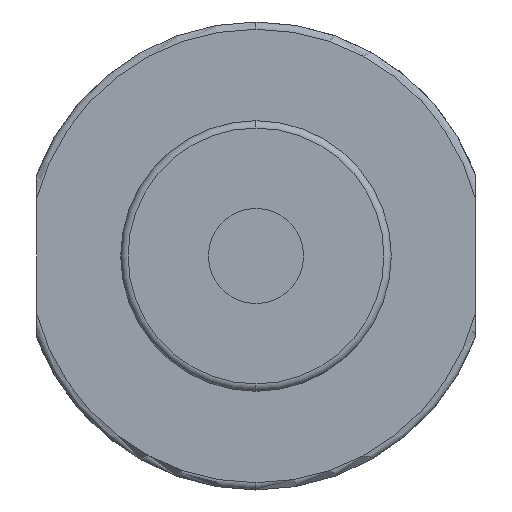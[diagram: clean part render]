
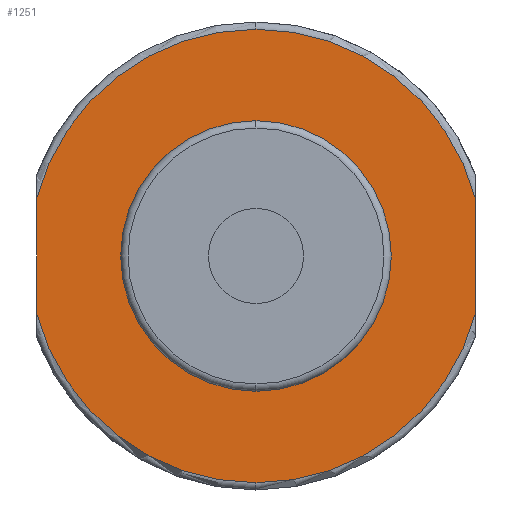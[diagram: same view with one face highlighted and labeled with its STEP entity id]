
A CAD part, left-side view. The second image highlights one B-rep face of the part: STEP entity #1251.
In plain terms, the highlighted planar face has unit normal (-1, 0, 0).
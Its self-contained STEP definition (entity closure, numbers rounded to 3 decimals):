
#94 = EDGE_CURVE ( 'NONE', #115, #631, #1217, .T. ) ;
#115 = VERTEX_POINT ( 'NONE', #910 ) ;
#126 = DIRECTION ( 'NONE',  ( 0., 1., 0. ) ) ;
#128 = CARTESIAN_POINT ( 'NONE',  ( 19., 0., 15.5 ) ) ;
#133 = CARTESIAN_POINT ( 'NONE',  ( 19., 0., 0. ) ) ;
#160 = ORIENTED_EDGE ( 'NONE', *, *, #94, .F. ) ;
#202 = ORIENTED_EDGE ( 'NONE', *, *, #1478, .F. ) ;
#237 = EDGE_CURVE ( 'NONE', #1318, #434, #633, .T. ) ;
#272 = DIRECTION ( 'NONE',  ( 0., 1., 0. ) ) ;
#280 = DIRECTION ( 'NONE',  ( 0., 1., 0. ) ) ;
#285 = ORIENTED_EDGE ( 'NONE', *, *, #1544, .F. ) ;
#299 = LINE ( 'NONE', #913, #687 ) ;
#303 = EDGE_CURVE ( 'NONE', #1088, #466, #552, .T. ) ;
#434 = VERTEX_POINT ( 'NONE', #732 ) ;
#441 = DIRECTION ( 'NONE',  ( 0., 1., 0. ) ) ;
#452 = FACE_BOUND ( 'NONE', #1665, .T. ) ;
#466 = VERTEX_POINT ( 'NONE', #1276 ) ;
#499 = CARTESIAN_POINT ( 'NONE',  ( 19., 0., -15.5 ) ) ;
#534 = CARTESIAN_POINT ( 'NONE',  ( 19., 0., 0. ) ) ;
#545 = CIRCLE ( 'NONE', #1431, 15.5 ) ;
#552 = CIRCLE ( 'NONE', #1016, 9.25 ) ;
#562 = VERTEX_POINT ( 'NONE', #1270 ) ;
#578 = CARTESIAN_POINT ( 'NONE',  ( 19., 0., 0. ) ) ;
#631 = VERTEX_POINT ( 'NONE', #499 ) ;
#633 = CIRCLE ( 'NONE', #1618, 15.5 ) ;
#645 = CARTESIAN_POINT ( 'NONE',  ( 19., 15., 0. ) ) ;
#650 = CARTESIAN_POINT ( 'NONE',  ( 19., 0., 0. ) ) ;
#659 = AXIS2_PLACEMENT_3D ( 'NONE', #1620, #791, #280 ) ;
#669 = ORIENTED_EDGE ( 'NONE', *, *, #1331, .T. ) ;
#677 = EDGE_CURVE ( 'NONE', #115, #434, #299, .T. ) ;
#687 = VECTOR ( 'NONE', #1613, 1000. ) ;
#710 = DIRECTION ( 'NONE',  ( 0., 1., 0. ) ) ;
#732 = CARTESIAN_POINT ( 'NONE',  ( 19., -15., 3.905 ) ) ;
#784 = CARTESIAN_POINT ( 'NONE',  ( 19., 12.375, 0. ) ) ;
#791 = DIRECTION ( 'NONE',  ( 1., 0., 0. ) ) ;
#798 = CIRCLE ( 'NONE', #1063, 15.5 ) ;
#818 = VECTOR ( 'NONE', #936, 1000. ) ;
#854 = AXIS2_PLACEMENT_3D ( 'NONE', #784, #1200, #1630 ) ;
#867 = VERTEX_POINT ( 'NONE', #1642 ) ;
#877 = DIRECTION ( 'NONE',  ( 0., 1., 0. ) ) ;
#893 = EDGE_CURVE ( 'NONE', #466, #1088, #963, .T. ) ;
#910 = CARTESIAN_POINT ( 'NONE',  ( 19., -15., -3.905 ) ) ;
#913 = CARTESIAN_POINT ( 'NONE',  ( 19., -15., 0. ) ) ;
#936 = DIRECTION ( 'NONE',  ( 0., 0., -1. ) ) ;
#942 = FACE_OUTER_BOUND ( 'NONE', #1356, .T. ) ;
#943 = DIRECTION ( 'NONE',  ( 1., 0., 0. ) ) ;
#963 = CIRCLE ( 'NONE', #659, 9.25 ) ;
#986 = ORIENTED_EDGE ( 'NONE', *, *, #893, .T. ) ;
#1007 = DIRECTION ( 'NONE',  ( 1., 0., 0. ) ) ;
#1016 = AXIS2_PLACEMENT_3D ( 'NONE', #534, #1007, #877 ) ;
#1063 = AXIS2_PLACEMENT_3D ( 'NONE', #578, #1535, #710 ) ;
#1088 = VERTEX_POINT ( 'NONE', #1268 ) ;
#1130 = CARTESIAN_POINT ( 'NONE',  ( 19., 0., 0. ) ) ;
#1162 = ORIENTED_EDGE ( 'NONE', *, *, #237, .F. ) ;
#1200 = DIRECTION ( 'NONE',  ( -1., 0., 0. ) ) ;
#1217 = CIRCLE ( 'NONE', #1514, 15.5 ) ;
#1251 = ADVANCED_FACE ( 'NONE', ( #942, #452 ), #1489, .T. ) ;
#1268 = CARTESIAN_POINT ( 'NONE',  ( 19., 9.25, 0. ) ) ;
#1270 = CARTESIAN_POINT ( 'NONE',  ( 19., 15., 3.905 ) ) ;
#1276 = CARTESIAN_POINT ( 'NONE',  ( 19., -9.25, 0. ) ) ;
#1318 = VERTEX_POINT ( 'NONE', #128 ) ;
#1331 = EDGE_CURVE ( 'NONE', #562, #867, #1572, .T. ) ;
#1356 = EDGE_LOOP ( 'NONE', ( #1637, #1162, #285, #669, #202, #160 ) ) ;
#1385 = DIRECTION ( 'NONE',  ( 1., 0., 0. ) ) ;
#1423 = ORIENTED_EDGE ( 'NONE', *, *, #303, .T. ) ;
#1431 = AXIS2_PLACEMENT_3D ( 'NONE', #1130, #1385, #441 ) ;
#1478 = EDGE_CURVE ( 'NONE', #631, #867, #545, .T. ) ;
#1489 = PLANE ( 'NONE',  #854 ) ;
#1514 = AXIS2_PLACEMENT_3D ( 'NONE', #650, #1737, #126 ) ;
#1535 = DIRECTION ( 'NONE',  ( 1., 0., 0. ) ) ;
#1544 = EDGE_CURVE ( 'NONE', #562, #1318, #798, .T. ) ;
#1572 = LINE ( 'NONE', #645, #818 ) ;
#1613 = DIRECTION ( 'NONE',  ( 0., 0., 1. ) ) ;
#1618 = AXIS2_PLACEMENT_3D ( 'NONE', #133, #943, #272 ) ;
#1620 = CARTESIAN_POINT ( 'NONE',  ( 19., 0., 0. ) ) ;
#1630 = DIRECTION ( 'NONE',  ( 0., 0., 1. ) ) ;
#1637 = ORIENTED_EDGE ( 'NONE', *, *, #677, .T. ) ;
#1642 = CARTESIAN_POINT ( 'NONE',  ( 19., 15., -3.905 ) ) ;
#1665 = EDGE_LOOP ( 'NONE', ( #1423, #986 ) ) ;
#1737 = DIRECTION ( 'NONE',  ( 1., 0., 0. ) ) ;
